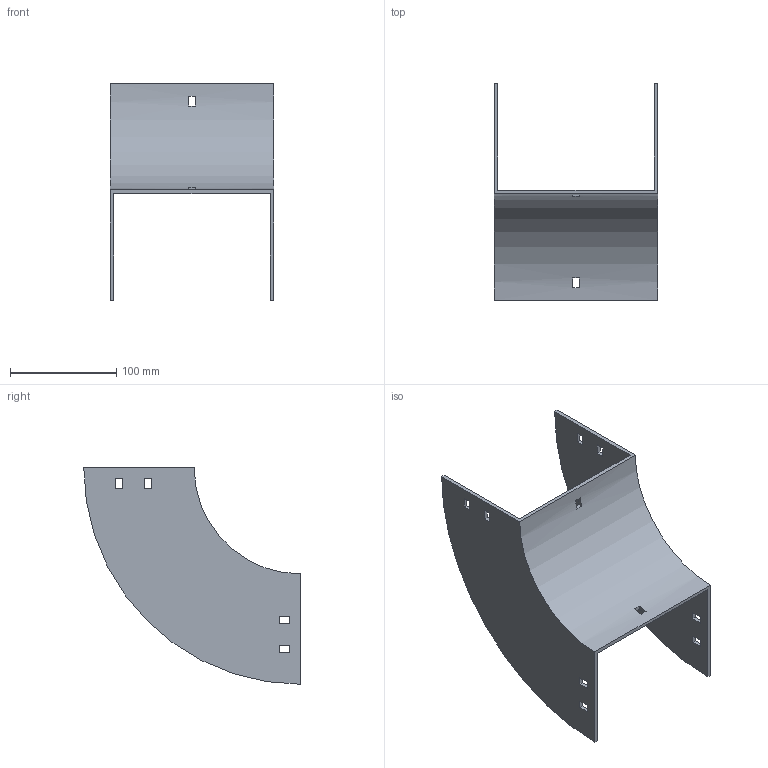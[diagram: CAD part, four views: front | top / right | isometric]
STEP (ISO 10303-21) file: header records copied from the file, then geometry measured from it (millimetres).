
FILE_DESCRIPTION (( 'STEP AP214' ), '1' );
FILE_NAME ('33B1D150.step', '2025-02-21T09:30:29', ( '' ), ( '' ), 'SwSTEP 2.0', 'SolidWorks 2023', '' );
FILE_SCHEMA (( 'AUTOMOTIVE_DESIGN' ));
Length unit declared in the file: millimetre
Products named in the file (1): 33B1D150
Bounding box: 154 x 204 x 204 mm (x, y, z)
Volume: 253674.7 mm3; surface area: 150837.9 mm2
Topology: 1 solids, 1 shells, 50 faces, 144 edges, 96 vertices
Faces by surface type: plane 46, cylinder 4
Entity records: 1687 total; most frequent: CARTESIAN_POINT 291, ORIENTED_EDGE 288, DIRECTION 262, EDGE_CURVE 144, VECTOR 128, LINE 128, VERTEX_POINT 96, EDGE_LOOP 70
